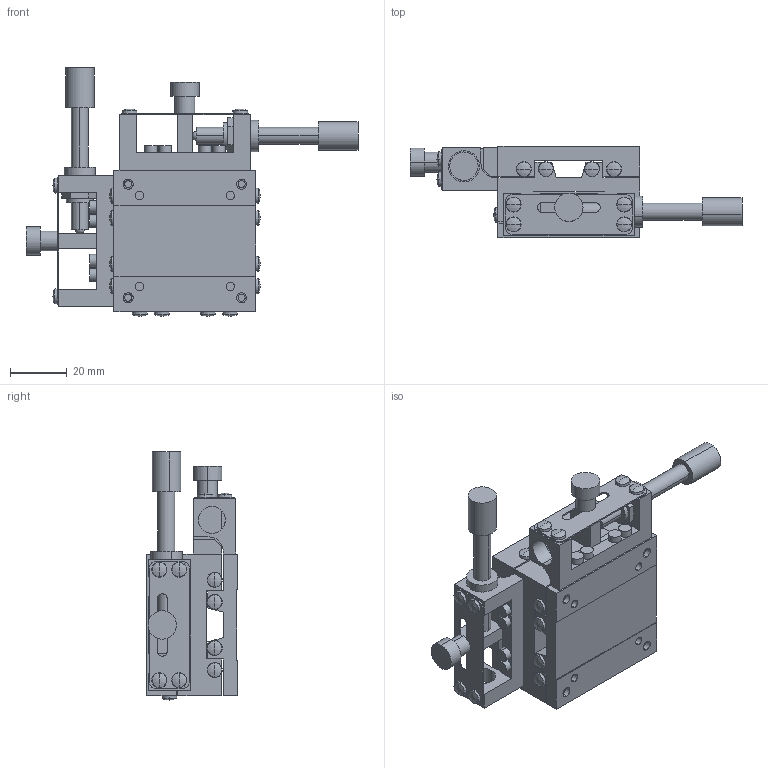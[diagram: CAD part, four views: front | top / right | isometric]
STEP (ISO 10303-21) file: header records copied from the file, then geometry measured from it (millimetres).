
FILE_DESCRIPTION (( 'STEP AP214' ), '1' );
FILE_NAME ('LD‐5041‐S6‐2.STEP', '2007-08-28T07:52:19', ( '' ), ( '' ), 'SwSTEP 2.0', 'SolidWorks 2006303', '' );
FILE_SCHEMA (( 'AUTOMOTIVE_DESIGN' ));
Length unit declared in the file: millimetre
Products named in the file (4): LD50S620－3_ﾃﾞﾌｫﾙﾄ; LD50S620－1_ﾃﾞﾌｫﾙﾄ; LD50S620－2_ﾃﾞﾌｫﾙﾄ; LD‐5041‐S6‐2
Assembly tree (3 placements, depth 2):
  LD‐5041‐S6‐2
    LD50S620－1_ﾃﾞﾌｫﾙﾄ
    LD50S620－3_ﾃﾞﾌｫﾙﾄ
    LD50S620－2_ﾃﾞﾌｫﾙﾄ
Bounding box: 117 x 32 x 87.5 mm (x, y, z)
Volume: 87631.4 mm3; surface area: 41022.9 mm2
Topology: 5 solids, 9 shells, 486 faces, 1186 edges, 762 vertices
Faces by surface type: plane 212, cylinder 174, sphere 52, cone 48
Entity records: 14566 total; most frequent: DIRECTION 2714, CARTESIAN_POINT 2428, ORIENTED_EDGE 2356, EDGE_CURVE 1178, AXIS2_PLACEMENT_3D 1044, VERTEX_POINT 758, VECTOR 626, LINE 626
